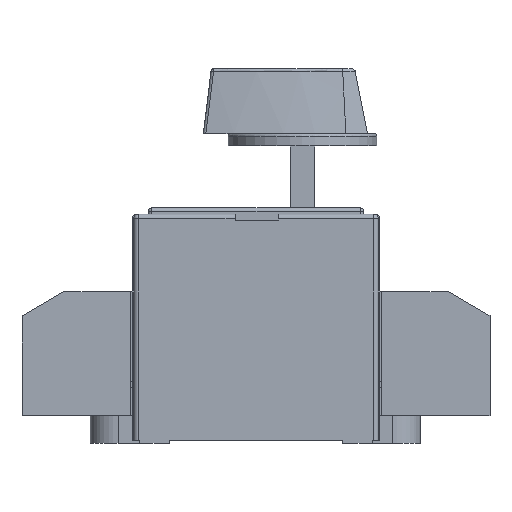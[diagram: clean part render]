
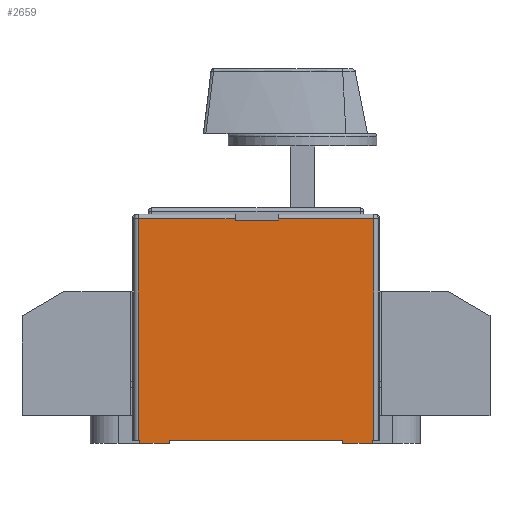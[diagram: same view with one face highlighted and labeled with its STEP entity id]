
A CAD part, left-side view. The second image highlights one B-rep face of the part: STEP entity #2659.
In plain terms, the highlighted planar face has unit normal (-1, 0, 0).
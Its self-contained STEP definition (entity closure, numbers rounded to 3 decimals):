
#815=LINE('',#13682,#1785);
#864=LINE('',#13799,#1834);
#866=LINE('',#13805,#1836);
#945=LINE('',#14154,#1915);
#962=LINE('',#14241,#1932);
#1006=LINE('',#14339,#1976);
#1011=LINE('',#14351,#1981);
#1013=LINE('',#14354,#1983);
#1019=LINE('',#14367,#1989);
#1183=LINE('',#14697,#2153);
#1189=LINE('',#14708,#2159);
#1190=LINE('',#14712,#2160);
#1191=LINE('',#14714,#2161);
#1192=LINE('',#14716,#2162);
#1193=LINE('',#14717,#2163);
#1194=LINE('',#14718,#2164);
#1785=VECTOR('',#10904,1.);
#1834=VECTOR('',#10989,1.);
#1836=VECTOR('',#10995,1.);
#1915=VECTOR('',#11312,1.);
#1932=VECTOR('',#11429,1.);
#1976=VECTOR('',#11527,1.);
#1981=VECTOR('',#11534,1.);
#1983=VECTOR('',#11538,1.);
#1989=VECTOR('',#11546,1.);
#2153=VECTOR('',#11842,1.);
#2159=VECTOR('',#11854,1.);
#2160=VECTOR('',#11859,1.);
#2161=VECTOR('',#11860,1.);
#2162=VECTOR('',#11861,1.);
#2163=VECTOR('',#11862,1.);
#2164=VECTOR('',#11863,1.);
#2659=ADVANCED_FACE('',(#3421),#2978,.F.);
#2978=PLANE('',#9555);
#3421=FACE_OUTER_BOUND('',#3948,.T.);
#3948=EDGE_LOOP('',(#6059,#6060,#6061,#6062,#6063,#6064,#6065,#6066,#6067,
#6068,#6069,#6070,#6071,#6072,#6073,#6074));
#6059=ORIENTED_EDGE('',*,*,#8513,.F.);
#6060=ORIENTED_EDGE('',*,*,#8266,.T.);
#6061=ORIENTED_EDGE('',*,*,#8068,.T.);
#6062=ORIENTED_EDGE('',*,*,#8012,.F.);
#6063=ORIENTED_EDGE('',*,*,#8071,.T.);
#6064=ORIENTED_EDGE('',*,*,#8223,.T.);
#6065=ORIENTED_EDGE('',*,*,#8515,.T.);
#6066=ORIENTED_EDGE('',*,*,#8516,.T.);
#6067=ORIENTED_EDGE('',*,*,#8517,.F.);
#6068=ORIENTED_EDGE('',*,*,#8316,.F.);
#6069=ORIENTED_EDGE('',*,*,#8321,.T.);
#6070=ORIENTED_EDGE('',*,*,#8518,.T.);
#6071=ORIENTED_EDGE('',*,*,#8329,.F.);
#6072=ORIENTED_EDGE('',*,*,#8323,.F.);
#6073=ORIENTED_EDGE('',*,*,#8507,.T.);
#6074=ORIENTED_EDGE('',*,*,#8519,.T.);
#7000=VERTEX_POINT('',#13681);
#7001=VERTEX_POINT('',#13683);
#7047=VERTEX_POINT('',#13800);
#7049=VERTEX_POINT('',#13806);
#7156=VERTEX_POINT('',#14149);
#7157=VERTEX_POINT('',#14153);
#7205=VERTEX_POINT('',#14340);
#7206=VERTEX_POINT('',#14341);
#7210=VERTEX_POINT('',#14350);
#7211=VERTEX_POINT('',#14355);
#7212=VERTEX_POINT('',#14356);
#7215=VERTEX_POINT('',#14364);
#7316=VERTEX_POINT('',#14696);
#7319=VERTEX_POINT('',#14709);
#7320=VERTEX_POINT('',#14713);
#7321=VERTEX_POINT('',#14715);
#8012=EDGE_CURVE('',#7000,#7001,#815,.T.);
#8068=EDGE_CURVE('',#7047,#7001,#864,.T.);
#8071=EDGE_CURVE('',#7000,#7049,#866,.T.);
#8223=EDGE_CURVE('',#7049,#7157,#945,.T.);
#8266=EDGE_CURVE('',#7156,#7047,#962,.T.);
#8316=EDGE_CURVE('',#7205,#7206,#1006,.T.);
#8321=EDGE_CURVE('',#7205,#7210,#1011,.T.);
#8323=EDGE_CURVE('',#7211,#7212,#1013,.T.);
#8329=EDGE_CURVE('',#7212,#7215,#1019,.T.);
#8507=EDGE_CURVE('',#7211,#7316,#1183,.T.);
#8513=EDGE_CURVE('',#7156,#7319,#1189,.T.);
#8515=EDGE_CURVE('',#7157,#7320,#1190,.T.);
#8516=EDGE_CURVE('',#7320,#7321,#1191,.T.);
#8517=EDGE_CURVE('',#7206,#7321,#1192,.T.);
#8518=EDGE_CURVE('',#7210,#7215,#1193,.T.);
#8519=EDGE_CURVE('',#7316,#7319,#1194,.T.);
#9555=AXIS2_PLACEMENT_3D('',#14719,#11864,#11865);
#10904=DIRECTION('',(0.,-1.,0.));
#10989=DIRECTION('',(0.,0.,-1.));
#10995=DIRECTION('',(0.,0.,1.));
#11312=DIRECTION('',(0.,1.,0.));
#11429=DIRECTION('',(0.,1.,0.));
#11527=DIRECTION('',(0.,1.,0.));
#11534=DIRECTION('',(0.,0.,1.));
#11538=DIRECTION('',(0.,1.,0.));
#11546=DIRECTION('',(0.,0.,1.));
#11842=DIRECTION('',(0.,0.,1.));
#11854=DIRECTION('',(0.,0.,-1.));
#11859=DIRECTION('',(0.,0.,-1.));
#11860=DIRECTION('',(0.,-1.,0.));
#11861=DIRECTION('',(0.,0.,1.));
#11862=DIRECTION('',(0.,-1.,0.));
#11863=DIRECTION('',(0.,-1.,0.));
#11864=DIRECTION('',(1.,0.,0.));
#11865=DIRECTION('',(0.,0.,-1.));
#13681=CARTESIAN_POINT('',(-69.,-17.985,67.));
#13682=CARTESIAN_POINT('',(-69.,12.765,67.));
#13683=CARTESIAN_POINT('',(-69.,-31.985,67.));
#13799=CARTESIAN_POINT('',(-69.,-31.985,69.1));
#13800=CARTESIAN_POINT('',(-69.,-31.985,67.6));
#13805=CARTESIAN_POINT('',(-69.,-17.985,69.1));
#13806=CARTESIAN_POINT('',(-69.,-17.985,67.6));
#14149=CARTESIAN_POINT('',(-69.,-62.735,67.6));
#14153=CARTESIAN_POINT('',(-69.,13.265,67.6));
#14154=CARTESIAN_POINT('',(-69.,13.265,67.6));
#14241=CARTESIAN_POINT('',(-69.,13.265,67.6));
#14339=CARTESIAN_POINT('',(-69.,3.265,-4.9));
#14340=CARTESIAN_POINT('',(-69.,3.265,-4.9));
#14341=CARTESIAN_POINT('',(-69.,12.765,-4.9));
#14350=CARTESIAN_POINT('',(-69.,3.265,-3.9));
#14351=CARTESIAN_POINT('',(-69.,3.265,-5.9));
#14354=CARTESIAN_POINT('',(-69.,-62.235,-4.9));
#14355=CARTESIAN_POINT('',(-69.,-62.235,-4.9));
#14356=CARTESIAN_POINT('',(-69.,-52.735,-4.9));
#14364=CARTESIAN_POINT('',(-69.,-52.735,-3.9));
#14367=CARTESIAN_POINT('',(-69.,-52.735,-5.9));
#14696=CARTESIAN_POINT('',(-69.,-62.235,-3.9));
#14697=CARTESIAN_POINT('',(-69.,-62.235,-5.9));
#14708=CARTESIAN_POINT('',(-69.,-62.735,69.1));
#14709=CARTESIAN_POINT('',(-69.,-62.735,-3.9));
#14712=CARTESIAN_POINT('',(-69.,13.265,69.1));
#14713=CARTESIAN_POINT('',(-69.,13.265,-3.9));
#14714=CARTESIAN_POINT('',(-69.,-62.235,-3.9));
#14715=CARTESIAN_POINT('',(-69.,12.765,-3.9));
#14716=CARTESIAN_POINT('',(-69.,12.765,-5.9));
#14717=CARTESIAN_POINT('',(-69.,-62.235,-3.9));
#14718=CARTESIAN_POINT('',(-69.,-62.235,-3.9));
#14719=CARTESIAN_POINT('',(-69.,-62.235,69.1));
